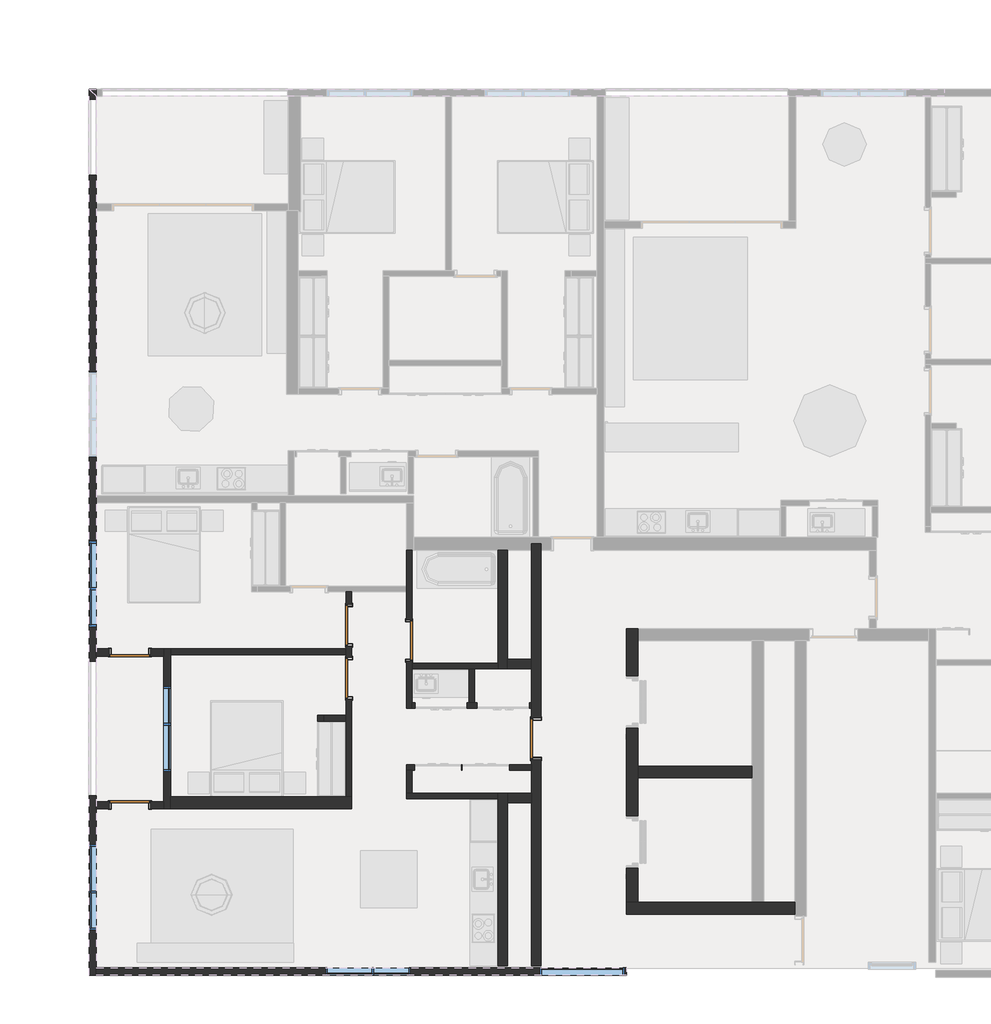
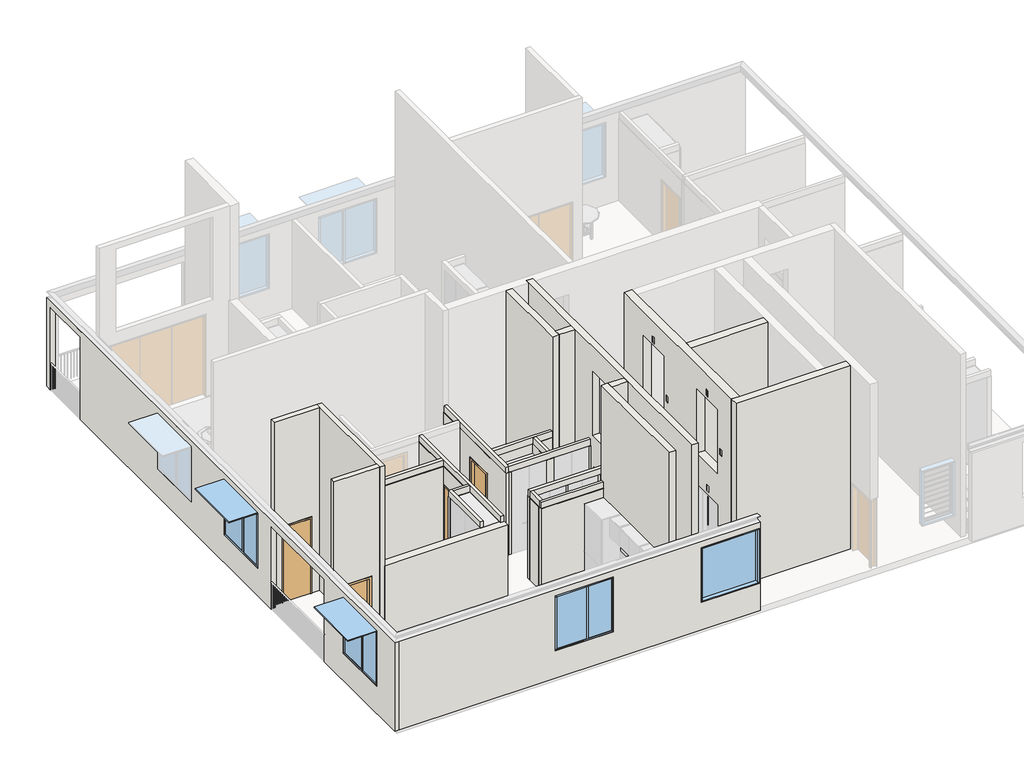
# One storey, part 1 of 5: 25 walls, 6 doors, 5 windows.
"""IFC4 building model written with IfcOpenShell, lengths in millimetres."""

from ifc_helpers import new_model, si_unit, frame, origin, place, context, project, spatial, polyline, outline, extrude, faceted_brep, transform, mapped, element, save
from components import swing_metal_frame_single_dor_92586886, swing_metal_frame_single_dor_60e0689a, swing_metal_frame_single_dor_a0fb8dd1, swing_metal_frame_single_dor1_8c3bdc90, swing_metal_frame_single_dor1_3d2ec989, window_bottom_hung_window_bottom_hung_09912109, window_bottom_hung_window_bottom_hung_26d81d5b, window_fixed_1800mm_wide_217cd763

model = new_model("IFC4")

# Units and contexts
model_context = context("Model", 3, world=origin())
ifc_project = project(units=[si_unit("LENGTHUNIT", "METRE", prefix="MILLI")], contexts=[model_context])

# Site, building, storey
site = spatial("IfcSite", under=ifc_project)
building = spatial("IfcBuilding", under=site)
storey = spatial("IfcBuildingStorey", under=building, Name="9階", Elevation=54700.0)

# Doors
placement = place(None, origin())
swing_metal_frame_single_dor_shape = swing_metal_frame_single_dor_92586886(model_context)
element("IfcDoor", 1, ObjectType="Swing_Metal Frame_Single_DOR : 2040h x 820 (2110x920 STUD)", at=placement, inside=storey, context=model_context, shape_type="MappedRepresentation", body=[
    mapped(swing_metal_frame_single_dor_shape, transform((7848.3164613, 6296.2680774, 54700.0), x_axis=(0.0, -1.0, 0.0), y_axis=(1.0, 0.0, 0.0), z_axis=(0.0, 0.0, 1.0))),
])
element("IfcDoor", 2, ObjectType="Swing_Metal Frame_Single_DOR : 2040h x 820 (2110x920 STUD)", at=placement, inside=storey, context=model_context, shape_type="MappedRepresentation", body=[
    mapped(swing_metal_frame_single_dor_shape, transform((9116.3164613, 7092.2680774, 54700.0), x_axis=(0.0, 1.0, 0.0), y_axis=(-1.0, 0.0, 0.0), z_axis=(0.0, 0.0, 1.0))),
])
swing_metal_frame_single_dor_2_shape = swing_metal_frame_single_dor_60e0689a(model_context)
element("IfcDoor", 3, ObjectType="Swing_Metal Frame_Single_DOR : 2040h x 820 (2110x920 STUD)", at=placement, inside=storey, context=model_context, shape_type="MappedRepresentation", body=[
    mapped(swing_metal_frame_single_dor_2_shape, transform((7848.3164613, 7414.2680774, 54700.0), x_axis=(0.0, 1.0, 0.0), y_axis=(-1.0, 0.0, 0.0), z_axis=(0.0, 0.0, 1.0))),
])
swing_metal_frame_single_dor_3_shape = swing_metal_frame_single_dor_a0fb8dd1(model_context)
element("IfcDoor", 4, ObjectType="Swing_Metal Frame_Single_DOR : 2040h x 820 (2110x920 STUD)", at=placement, inside=storey, context=model_context, shape_type="MappedRepresentation", body=[
    mapped(swing_metal_frame_single_dor_3_shape, transform((11794.6062665, 5019.2678956, 54700.0), x_axis=(0.0, -1.0, 0.0), y_axis=(1.0, 0.0, 0.0), z_axis=(0.0, 0.0, 1.0))),
])
swing_metal_frame_single_dor1_shape = swing_metal_frame_single_dor1_8c3bdc90(model_context)
element("IfcDoor", 5, ObjectType="Swing_Metal Frame_Single_DOR1 : 2040h x 820 (2110x920 STUD)", at=placement, inside=storey, context=model_context, shape_type="MappedRepresentation", body=[
    mapped(swing_metal_frame_single_dor1_shape, transform((3227.1057353, 3621.2680774, 54700.0), x_axis=(-1.0, 0.0, 0.0), y_axis=(0.0, -1.0, 0.0), z_axis=(0.0, 0.0, 1.0))),
])
swing_metal_frame_single_dor1_2_shape = swing_metal_frame_single_dor1_3d2ec989(model_context)
element("IfcDoor", 6, ObjectType="Swing_Metal Frame_Single_DOR1 : 2040h x 820 (2110x920 STUD)", at=placement, inside=storey, context=model_context, shape_type="MappedRepresentation", body=[
    mapped(swing_metal_frame_single_dor1_2_shape, transform((3227.1057353, 6839.2680774, 54700.0), x_axis=(-1.0, 0.0, 0.0), y_axis=(0.0, -1.0, 0.0), z_axis=(0.0, 0.0, 1.0))),
])

# Walls
element("IfcWall", 7, ObjectType="Whte Paint Finish", at=placement, inside=storey, context=model_context, shape_type="Brep", body=[
    faceted_brep([(4084.6057353, 3546.2680774, 54700.0), (4084.6057353, 6914.2680774, 54700.0), (4084.6057353, 6914.2680774, 60700.0), (4084.6057353, 3546.2680774, 60700.0), (4084.6057353, 6130.2680774, 55600.0), (4084.6057353, 4330.2680774, 55600.0), (4084.6057353, 4330.2680774, 57400.0), (4084.6057353, 6130.2680774, 57400.0), (3934.6057353, 3546.2680774, 54700.0), (3934.6057353, 3546.2680774, 60700.0), (3934.6057353, 3696.2680774, 60700.0), (3934.6057353, 6764.2680774, 60700.0), (3934.6057353, 6914.2680774, 60700.0), (3934.6057353, 6914.2680774, 54700.0), (3934.6057353, 6764.2680774, 54700.0), (3934.6057353, 3696.2680774, 54700.0), (3934.6057353, 6130.2680774, 55600.0), (3934.6057353, 6130.2680774, 57400.0), (3934.6057353, 4330.2680774, 57400.0), (3934.6057353, 4330.2680774, 55600.0)], [[[0, 1, 2, 3], [4, 5, 6, 7]], [[8, 9, 10, 11, 12, 13, 14, 15], [16, 17, 18, 19]], [[1, 0, 8, 15, 14, 13]], [[3, 2, 12, 11, 10, 9]], [[0, 3, 9, 8]], [[2, 1, 13, 12]], [[17, 16, 4, 7]], [[18, 17, 7, 6]], [[19, 18, 6, 5]], [[16, 19, 5, 4]]]),
])
element("IfcWall", 8, ObjectType="Whte Paint Finish", at=placement, inside=storey, context=model_context, shape_type="SweptSolid", body=[
    extrude(outline(polyline([(60700.0, 3934.6057353), (60700.0, 2519.6057353), (54700.0, 2519.6057353), (54700.0, 2787.1057353), (57190.0, 2787.1057353), (57190.0, 3667.1057353), (54700.0, 3667.1057353), (54700.0, 3934.6057353), (60700.0, 3934.6057353)])), frame((0.0, 3546.2680774, 0.0), z_axis=(0.0, 1.0, 0.0), x_axis=(0.0, 0.0, 1.0)), (0.0, 0.0, 1.0), 150.0),
])
element("IfcWall", 9, ObjectType="Whte Paint Finish", at=placement, inside=storey, context=model_context, shape_type="SweptSolid", body=[
    extrude(outline(polyline([(60700.0, 3934.6057353), (60700.0, 2519.6057353), (54700.0, 2519.6057353), (54700.0, 2787.1057353), (57190.0, 2787.1057353), (57190.0, 3667.1057353), (54700.0, 3667.1057353), (54700.0, 3934.6057353), (60700.0, 3934.6057353)])), frame((0.0, 6764.2680774, 0.0), z_axis=(0.0, 1.0, 0.0), x_axis=(0.0, 0.0, 1.0)), (0.0, 0.0, 1.0), 150.0),
])
element("IfcWall", 10, ObjectType="Whte Paint Finish", at=placement, inside=storey, context=model_context, shape_type="SweptSolid", body=[
    extrude(outline(polyline([(54700.0, 2519.6057353), (54700.0, 13694.6062665), (57600.0, 13694.6062665), (57600.0, 2519.6057353), (54700.0, 2519.6057353)]), holes=[polyline([(55600.0, 11869.6062665), (57400.0, 11869.6062665), (57400.0, 13669.6062665), (55600.0, 13669.6062665), (55600.0, 11869.6062665)]), polyline([(55600.0, 9149.6062665), (55600.0, 7349.6062665), (57400.0, 7349.6062665), (57400.0, 9149.6062665), (55600.0, 9149.6062665)])]), frame((0.0, 39.0898177, 0.0), z_axis=(0.0, 1.0, 0.0), x_axis=(0.0, 0.0, 1.0)), (0.0, 0.0, 1.0), 150.0),
])
element("IfcWall", 11, ObjectType="Whte Paint Finish", at=placement, inside=storey, context=model_context, shape_type="Brep", body=[
    faceted_brep([(2369.6057353, 18710.0, 57600.0), (2369.6057353, 39.0898177, 57600.0), (2519.6057353, 39.0898177, 57600.0), (2519.6057353, 189.0898177, 57600.0), (2519.6057353, 18560.0, 57600.0), (2519.6057353, 18710.0, 57600.0), (2519.6057353, 39.0898177, 54700.0), (2519.6057353, 189.0898177, 54700.0), (2519.6057353, 3546.2680774, 54700.0), (2519.6057353, 3696.2680774, 54700.0), (2519.6057353, 3816.2680774, 54700.0), (2519.6057353, 3816.2680774, 57400.0), (2519.6057353, 6650.3166994, 57400.0), (2519.6057353, 6650.3166994, 54700.0), (2519.6057353, 6764.2680774, 54700.0), (2519.6057353, 6914.2680774, 54700.0), (2519.6057353, 9989.7821797, 54700.0), (2519.6057353, 10139.7821797, 54700.0), (2519.6057353, 16149.7819979, 54700.0), (2519.6057353, 16299.7819979, 54700.0), (2519.6057353, 16894.8875971, 54700.0), (2519.6057353, 16894.8875971, 57400.0), (2519.6057353, 18500.0, 57400.0), (2519.6057353, 18500.0, 54700.0), (2519.6057353, 18560.0, 54700.0), (2519.6057353, 18710.0, 54700.0), (2519.6057353, 10950.7680774, 55600.0), (2519.6057353, 10950.7680774, 57400.0), (2519.6057353, 12750.7680774, 57400.0), (2519.6057353, 12750.7680774, 55600.0), (2519.6057353, 990.6340387, 55600.0), (2519.6057353, 990.6340387, 57400.0), (2519.6057353, 2790.6340387, 57400.0), (2519.6057353, 2790.6340387, 55600.0), (2519.6057353, 7385.3166994, 55600.0), (2519.6057353, 7385.3166994, 57400.0), (2519.6057353, 9185.3166994, 57400.0), (2519.6057353, 9185.3166994, 55600.0), (2369.6057353, 18710.0, 54700.0), (2369.6057353, 18500.0, 54700.0), (2369.6057353, 18500.0, 57400.0), (2369.6057353, 16894.8875971, 57400.0), (2369.6057353, 16894.8875971, 54700.0), (2369.6057353, 6650.3166994, 54700.0), (2369.6057353, 6650.3166994, 57400.0), (2369.6057353, 3816.2680774, 57400.0), (2369.6057353, 3816.2680774, 54700.0), (2369.6057353, 39.0898177, 54700.0), (2369.6057353, 10950.7680774, 55600.0), (2369.6057353, 12750.7680774, 55600.0), (2369.6057353, 12750.7680774, 57400.0), (2369.6057353, 10950.7680774, 57400.0), (2369.6057353, 990.6340387, 55600.0), (2369.6057353, 2790.6340387, 55600.0), (2369.6057353, 2790.6340387, 57400.0), (2369.6057353, 990.6340387, 57400.0), (2369.6057353, 7385.3166994, 55600.0), (2369.6057353, 9185.3166994, 55600.0), (2369.6057353, 9185.3166994, 57400.0), (2369.6057353, 7385.3166994, 57400.0)], [[[0, 1, 2, 3, 4, 5]], [[5, 4, 3, 2, 6, 7, 8, 9, 10, 11, 12, 13, 14, 15, 16, 17, 18, 19, 20, 21, 22, 23, 24, 25], [26, 27, 28, 29], [30, 31, 32, 33], [34, 35, 36, 37]], [[1, 0, 38, 39, 40, 41, 42, 43, 44, 45, 46, 47], [48, 49, 50, 51], [52, 53, 54, 55], [56, 57, 58, 59]], [[13, 43, 42, 20, 19, 18, 17, 16, 15, 14]], [[38, 25, 24, 23, 39]], [[10, 9, 8, 7, 6, 47, 46]], [[45, 11, 10, 46]], [[12, 44, 43, 13]], [[11, 45, 44, 12]], [[41, 21, 20, 42]], [[22, 40, 39, 23]], [[21, 41, 40, 22]], [[6, 2, 1, 47]], [[5, 25, 38, 0]], [[27, 26, 48, 51]], [[28, 27, 51, 50]], [[29, 28, 50, 49]], [[26, 29, 49, 48]], [[31, 30, 52, 55]], [[32, 31, 55, 54]], [[33, 32, 54, 53]], [[30, 33, 53, 52]], [[35, 34, 56, 59]], [[36, 35, 59, 58]], [[37, 36, 58, 57]], [[34, 37, 57, 56]]]),
])
element("IfcWall", 12, ObjectType="A2 - Acoustic Type 2", at=placement, inside=storey, context=model_context, shape_type="SweptSolid", body=[
    extrude(outline(polyline([(7907.3164613, 3546.2680774), (4084.6057353, 3546.2680774), (4084.6057353, 3796.2680774), (7189.3164613, 3796.2680774), (7189.3164613, 3794.2680774), (7832.3164613, 3794.2680774), (7832.3164613, 3796.2680774), (7907.3164613, 3796.2680774), (7907.3164613, 3546.2680774)])), frame((0.0, 0.0, 54700.0), z_axis=(0.0, 0.0, 1.0), x_axis=(1.0, 0.0, 0.0)), (0.0, 0.0, 1.0), 2700.0),
])
element("IfcWall", 13, ObjectType="C1 - Concrete Type 2", at=placement, inside=storey, context=model_context, shape_type="SweptSolid", body=[
    extrude(outline(polyline([(11694.6062665, 6497.0008144), (11194.6062665, 6497.0008144), (11194.6062665, 6697.0008144), (11694.6062665, 6697.0008144), (11694.6062665, 6497.0008144)])), frame((0.0, 0.0, 54700.0), z_axis=(0.0, 0.0, 1.0), x_axis=(1.0, 0.0, 0.0)), (0.0, 0.0, 1.0), 6000.0),
])
element("IfcWall", 14, ObjectType="C1 - Concrete Type 2", at=placement, inside=storey, context=model_context, shape_type="Brep", body=[
    faceted_brep([(11194.6062665, 6497.0008144, 54700.0), (11194.6062665, 6697.0008144, 54700.0), (11194.6062665, 8997.0008144, 54700.0), (11194.6062665, 8997.0008144, 60700.0), (11194.6062665, 6697.0008144, 60700.0), (11194.6062665, 6497.0008144, 60700.0), (10994.6062665, 6497.0008144, 54700.0), (10994.6062665, 6497.0008144, 60700.0), (10994.6062665, 6509.2680774, 60700.0), (10994.6062665, 6601.2680774, 60700.0), (10994.6062665, 8997.0008144, 60700.0), (10994.6062665, 8997.0008144, 54700.0), (10994.6062665, 6614.2680774, 54700.0)], [[[0, 1, 2, 3, 4, 5]], [[6, 7, 8, 9, 10, 11, 12]], [[2, 1, 0, 6, 12, 11]], [[3, 2, 11, 10]], [[5, 4, 3, 10, 9, 8, 7]], [[0, 5, 7, 6]]]),
])
element("IfcWall", 15, ObjectType="C1 - Concrete Type 2", at=placement, inside=storey, context=model_context, shape_type="SweptSolid", body=[
    extrude(outline(polyline([(11694.6062665, 3673.0), (11194.6062665, 3673.0), (11194.6062665, 3873.0), (11694.6062665, 3873.0), (11694.6062665, 3673.0)])), frame((0.0, 0.0, 54700.0), z_axis=(0.0, 0.0, 1.0), x_axis=(1.0, 0.0, 0.0)), (0.0, 0.0, 1.0), 6000.0),
])
element("IfcWall", 16, ObjectType="C1 - Concrete Type 2", at=placement, inside=storey, context=model_context, shape_type="Brep", body=[
    faceted_brep([(11194.6062665, 235.0, 54700.0), (11194.6062665, 3673.0, 54700.0), (11194.6062665, 3873.0, 54700.0), (11194.6062665, 3873.0, 60700.0), (11194.6062665, 3673.0, 60700.0), (11194.6062665, 235.0, 60700.0), (10994.6062665, 235.0, 54700.0), (10994.6062665, 235.0, 60700.0), (10994.6062665, 3873.0, 60700.0), (10994.6062665, 3873.0, 57400.0), (10994.6062665, 3873.0, 54700.0), (10994.6062665, 3755.0, 54700.0)], [[[0, 1, 2, 3, 4, 5]], [[6, 7, 8, 9, 10, 11]], [[2, 1, 0, 6, 11, 10]], [[3, 2, 10, 9, 8]], [[5, 4, 3, 8, 7]], [[0, 5, 7, 6]]]),
])
element("IfcWall", 17, ObjectType="C1 - Concrete Type 2", at=placement, inside=storey, context=model_context, shape_type="Brep", body=[
    faceted_brep([(11894.6062665, 9131.2680774, 54700.0), (11894.6062665, 9131.2680774, 60700.0), (11894.6062665, 235.0, 60700.0), (11894.6062665, 235.0, 54700.0), (11894.6062665, 4579.2678956, 54700.0), (11894.6062665, 4579.2678956, 56790.0), (11894.6062665, 5459.2678956, 56790.0), (11894.6062665, 5459.2678956, 54700.0), (11894.6062665, 5556.6339478, 57800.0), (11894.6062665, 4576.6339478, 57800.0), (11894.6062665, 4576.6339478, 59890.0), (11894.6062665, 5556.6339478, 59890.0), (11694.6062665, 9131.2680774, 60700.0), (11694.6062665, 9131.2680774, 54700.0), (11694.6062665, 6697.0008144, 54700.0), (11694.6062665, 6497.0008144, 54700.0), (11694.6062665, 5778.2678956, 54700.0), (11694.6062665, 5660.2678956, 54700.0), (11694.6062665, 5459.2678956, 54700.0), (11694.6062665, 5459.2678956, 56790.0), (11694.6062665, 4579.2678956, 56790.0), (11694.6062665, 4579.2678956, 54700.0), (11694.6062665, 4473.0, 54700.0), (11694.6062665, 4355.0, 54700.0), (11694.6062665, 3873.0, 54700.0), (11694.6062665, 3673.0, 54700.0), (11694.6062665, 235.0, 54700.0), (11694.6062665, 235.0, 60700.0), (11694.6062665, 3673.0, 60700.0), (11694.6062665, 3873.0, 60700.0), (11694.6062665, 4368.0, 60700.0), (11694.6062665, 4460.0, 60700.0), (11694.6062665, 5673.2678956, 60700.0), (11694.6062665, 5765.2678956, 60700.0), (11694.6062665, 6497.0008144, 60700.0), (11694.6062665, 6697.0008144, 60700.0), (11694.6062665, 5556.6339478, 57800.0), (11694.6062665, 5556.6339478, 59890.0), (11694.6062665, 4576.6339478, 59890.0), (11694.6062665, 4576.6339478, 57800.0)], [[[0, 1, 2, 3, 4, 5, 6, 7], [8, 9, 10, 11]], [[12, 13, 14, 15, 16, 17, 18, 19, 20, 21, 22, 23, 24, 25, 26, 27, 28, 29, 30, 31, 32, 33, 34, 35], [36, 37, 38, 39]], [[13, 0, 7, 18, 17, 16, 15, 14]], [[3, 26, 25, 24, 23, 22, 21, 4]], [[1, 0, 13, 12]], [[2, 1, 12, 35, 34, 33, 32, 31, 30, 29, 28, 27]], [[3, 2, 27, 26]], [[20, 5, 4, 21]], [[5, 20, 19, 6]], [[6, 19, 18, 7]], [[37, 36, 8, 11]], [[38, 37, 11, 10]], [[39, 38, 10, 9]], [[36, 39, 9, 8]]]),
])
element("IfcWall", 18, ObjectType="C1 - Concrete Type 3 - 250mm", at=placement, inside=storey, context=model_context, shape_type="Brep", body=[
    faceted_brep([(13694.6062665, 1325.0, 54700.0), (17244.6062665, 1325.0, 54700.0), (17244.6062665, 1325.0, 60700.0), (13694.6062665, 1325.0, 60700.0), (13694.6062665, 1575.0, 54700.0), (13694.6062665, 1575.0, 60700.0), (13944.6062665, 1575.0, 60700.0), (16344.6062665, 1575.0, 60700.0), (16594.6062665, 1575.0, 60700.0), (17244.6062665, 1575.0, 60700.0), (17244.6062665, 1575.0, 54700.0), (16594.6062665, 1575.0, 54700.0), (16344.6062665, 1575.0, 54700.0), (13944.6062665, 1575.0, 54700.0)], [[[0, 1, 2, 3]], [[4, 5, 6, 7, 8, 9, 10, 11, 12, 13]], [[1, 0, 4, 13, 12, 11, 10]], [[3, 2, 9, 8, 7, 6, 5]], [[0, 3, 5, 4]], [[2, 1, 10, 9]]]),
])
element("IfcWall", 19, ObjectType="C1 - Concrete Type 3 - 250mm", at=placement, inside=storey, context=model_context, shape_type="SweptSolid", body=[
    extrude(outline(polyline([(16344.6062665, 4195.0), (13944.6062665, 4195.0), (13944.6062665, 4445.0), (16344.6062665, 4445.0), (16344.6062665, 4195.0)])), frame((0.0, 0.0, 54700.0), z_axis=(0.0, 0.0, 1.0), x_axis=(1.0, 0.0, 0.0)), (0.0, 0.0, 1.0), 6000.0),
])
element("IfcWall", 20, ObjectType="C1 - Concrete Type 3 - 250mm", at=placement, inside=storey, context=model_context, shape_type="Brep", body=[
    faceted_brep([(13944.6062665, 7335.0, 60700.0), (13944.6062665, 7085.0, 60700.0), (13944.6062665, 4445.0, 60700.0), (13944.6062665, 4195.0, 60700.0), (13944.6062665, 1575.0, 60700.0), (13944.6062665, 1575.0, 54700.0), (13944.6062665, 2295.0, 54700.0), (13944.6062665, 2295.0, 56800.0), (13944.6062665, 3395.0, 56800.0), (13944.6062665, 3395.0, 54700.0), (13944.6062665, 4195.0, 54700.0), (13944.6062665, 4445.0, 54700.0), (13944.6062665, 5245.0, 54700.0), (13944.6062665, 5245.0, 56800.0), (13944.6062665, 6345.0, 56800.0), (13944.6062665, 6345.0, 54700.0), (13944.6062665, 7085.0, 54700.0), (13944.6062665, 7335.0, 54700.0), (13944.6062665, 5215.0, 57800.0), (13944.6062665, 5215.0, 59900.0), (13944.6062665, 6315.0, 59900.0), (13944.6062665, 6315.0, 57800.0), (13944.6062665, 2335.0, 57800.0), (13944.6062665, 2335.0, 59900.0), (13944.6062665, 3435.0, 59900.0), (13944.6062665, 3435.0, 57800.0), (13694.6062665, 1575.0, 60700.0), (13694.6062665, 7335.0, 60700.0), (13694.6062665, 7335.0, 54700.0), (13694.6062665, 6345.0, 54700.0), (13694.6062665, 6345.0, 56800.0), (13694.6062665, 5245.0, 56800.0), (13694.6062665, 5245.0, 54700.0), (13694.6062665, 3395.0, 54700.0), (13694.6062665, 3395.0, 56800.0), (13694.6062665, 2295.0, 56800.0), (13694.6062665, 2295.0, 54700.0), (13694.6062665, 1575.0, 54700.0), (13694.6062665, 2165.0, 55400.0), (13694.6062665, 2165.0, 55600.0), (13694.6062665, 2065.0, 55600.0), (13694.6062665, 2065.0, 55400.0), (13694.6062665, 2895.0, 56900.0), (13694.6062665, 2895.0, 57100.0), (13694.6062665, 2795.0, 57100.0), (13694.6062665, 2795.0, 56900.0), (13694.6062665, 5115.0, 55400.0), (13694.6062665, 5115.0, 55600.0), (13694.6062665, 5015.0, 55600.0), (13694.6062665, 5015.0, 55400.0), (13694.6062665, 5845.0, 56900.0), (13694.6062665, 5845.0, 57100.0), (13694.6062665, 5745.0, 57100.0), (13694.6062665, 5745.0, 56900.0), (13694.6062665, 5215.0, 59900.0), (13694.6062665, 5215.0, 57800.0), (13694.6062665, 6315.0, 57800.0), (13694.6062665, 6315.0, 59900.0), (13694.6062665, 5085.0, 58500.0), (13694.6062665, 5085.0, 58700.0), (13694.6062665, 4985.0, 58700.0), (13694.6062665, 4985.0, 58500.0), (13694.6062665, 5815.0, 60000.0), (13694.6062665, 5815.0, 60200.0), (13694.6062665, 5715.0, 60200.0), (13694.6062665, 5715.0, 60000.0), (13694.6062665, 2335.0, 59900.0), (13694.6062665, 2335.0, 57800.0), (13694.6062665, 3435.0, 57800.0), (13694.6062665, 3435.0, 59900.0), (13694.6062665, 2205.0, 58500.0), (13694.6062665, 2205.0, 58700.0), (13694.6062665, 2105.0, 58700.0), (13694.6062665, 2105.0, 58500.0), (13694.6062665, 2935.0, 60000.0), (13694.6062665, 2935.0, 60200.0), (13694.6062665, 2835.0, 60200.0), (13694.6062665, 2835.0, 60000.0), (13714.6062665, 2165.0, 55400.0), (13714.6062665, 2065.0, 55400.0), (13714.6062665, 2065.0, 55600.0), (13714.6062665, 2165.0, 55600.0), (13714.6062665, 2895.0, 56900.0), (13714.6062665, 2795.0, 56900.0), (13714.6062665, 2795.0, 57100.0), (13714.6062665, 2895.0, 57100.0), (13714.6062665, 5115.0, 55400.0), (13714.6062665, 5015.0, 55400.0), (13714.6062665, 5015.0, 55600.0), (13714.6062665, 5115.0, 55600.0), (13714.6062665, 5845.0, 56900.0), (13714.6062665, 5745.0, 56900.0), (13714.6062665, 5745.0, 57100.0), (13714.6062665, 5845.0, 57100.0), (13714.6062665, 5085.0, 58500.0), (13714.6062665, 4985.0, 58500.0), (13714.6062665, 4985.0, 58700.0), (13714.6062665, 5085.0, 58700.0), (13714.6062665, 5815.0, 60000.0), (13714.6062665, 5715.0, 60000.0), (13714.6062665, 5715.0, 60200.0), (13714.6062665, 5815.0, 60200.0), (13714.6062665, 2205.0, 58500.0), (13714.6062665, 2105.0, 58500.0), (13714.6062665, 2105.0, 58700.0), (13714.6062665, 2205.0, 58700.0), (13714.6062665, 2935.0, 60000.0), (13714.6062665, 2835.0, 60000.0), (13714.6062665, 2835.0, 60200.0), (13714.6062665, 2935.0, 60200.0)], [[[0, 1, 2, 3, 4, 5, 6, 7, 8, 9, 10, 11, 12, 13, 14, 15, 16, 17], [18, 19, 20, 21], [22, 23, 24, 25]], [[26, 27, 28, 29, 30, 31, 32, 33, 34, 35, 36, 37], [38, 39, 40, 41], [42, 43, 44, 45], [46, 47, 48, 49], [50, 51, 52, 53], [54, 55, 56, 57], [58, 59, 60, 61], [62, 63, 64, 65], [66, 67, 68, 69], [70, 71, 72, 73], [74, 75, 76, 77]], [[5, 37, 36, 6]], [[9, 33, 32, 12, 11, 10]], [[17, 16, 15, 29, 28]], [[4, 3, 2, 1, 0, 27, 26]], [[35, 7, 6, 36]], [[8, 34, 33, 9]], [[7, 35, 34, 8]], [[78, 79, 80, 81]], [[78, 81, 39, 38]], [[81, 80, 40, 39]], [[80, 79, 41, 40]], [[79, 78, 38, 41]], [[82, 83, 84, 85]], [[82, 85, 43, 42]], [[85, 84, 44, 43]], [[84, 83, 45, 44]], [[83, 82, 42, 45]], [[31, 13, 12, 32]], [[14, 30, 29, 15]], [[13, 31, 30, 14]], [[86, 87, 88, 89]], [[86, 89, 47, 46]], [[89, 88, 48, 47]], [[88, 87, 49, 48]], [[87, 86, 46, 49]], [[90, 91, 92, 93]], [[90, 93, 51, 50]], [[93, 92, 52, 51]], [[92, 91, 53, 52]], [[91, 90, 50, 53]], [[5, 4, 26, 37]], [[0, 17, 28, 27]], [[18, 55, 54, 19]], [[55, 18, 21, 56]], [[56, 21, 20, 57]], [[19, 54, 57, 20]], [[94, 95, 96, 97]], [[94, 97, 59, 58]], [[97, 96, 60, 59]], [[96, 95, 61, 60]], [[95, 94, 58, 61]], [[98, 99, 100, 101]], [[98, 101, 63, 62]], [[101, 100, 64, 63]], [[100, 99, 65, 64]], [[99, 98, 62, 65]], [[22, 67, 66, 23]], [[67, 22, 25, 68]], [[68, 25, 24, 69]], [[23, 66, 69, 24]], [[102, 103, 104, 105]], [[102, 105, 71, 70]], [[105, 104, 72, 71]], [[104, 103, 73, 72]], [[103, 102, 70, 73]], [[106, 107, 108, 109]], [[106, 109, 75, 74]], [[109, 108, 76, 75]], [[108, 107, 77, 76]], [[107, 106, 74, 77]]]),
])
element("IfcWall", 21, ObjectType="P1 - Partition Type 1", at=placement, inside=storey, context=model_context, shape_type="Brep", body=[
    faceted_brep([(4084.6057353, 6796.2680774, 54700.0), (7789.3164613, 6796.2680774, 54700.0), (7789.3164613, 6796.2680774, 57400.0), (4084.6057353, 6796.2680774, 57400.0), (7789.3164613, 6914.2680774, 54700.0), (4084.6057353, 6914.2680774, 54700.0), (4084.6057353, 6914.2680774, 57400.0), (7789.3164613, 6914.2680774, 57400.0), (4084.6057353, 6809.2680774, 57400.0), (4084.6057353, 6809.2680774, 57600.0), (4084.6057353, 6901.2680774, 57600.0), (4084.6057353, 6901.2680774, 57400.0), (7789.3164613, 6901.2680774, 57400.0), (7802.3164613, 6901.2680774, 57600.0), (7802.3164613, 6901.2680774, 57400.0), (7789.3164613, 6809.2680774, 57400.0), (7802.3164613, 6809.2680774, 57400.0), (7802.3164613, 6809.2680774, 57600.0)], [[[0, 1, 2, 3]], [[4, 5, 6, 7]], [[1, 0, 5, 4]], [[0, 3, 8, 9, 10, 11, 6, 5]], [[7, 6, 11, 12]], [[12, 11, 10, 13, 14]], [[3, 2, 15, 8]], [[8, 15, 16, 17, 9]], [[2, 1, 4, 7, 12, 15]], [[13, 10, 9, 17]], [[16, 15, 12, 14]], [[13, 17, 16, 14]]]),
])
element("IfcWall", 22, ObjectType="P1 - Partition Type 1", at=placement, inside=storey, context=model_context, shape_type="Brep", body=[
    faceted_brep([(7789.3164613, 3746.2680774, 54700.0), (7789.3164613, 3746.2680774, 57400.0), (7789.3164613, 5394.2680774, 57400.0), (7789.3164613, 5512.2680774, 57400.0), (7789.3164613, 6796.2680774, 57400.0), (7789.3164613, 6914.2680774, 57400.0), (7789.3164613, 8114.2680774, 57400.0), (7789.3164613, 8114.2680774, 54700.0), (7789.3164613, 7854.2680774, 54700.0), (7789.3164613, 7854.2680774, 56790.0), (7789.3164613, 6974.2680774, 56790.0), (7789.3164613, 6974.2680774, 54700.0), (7789.3164613, 6914.2680774, 54700.0), (7789.3164613, 6796.2680774, 54700.0), (7789.3164613, 6736.2680774, 54700.0), (7789.3164613, 6736.2680774, 56790.0), (7789.3164613, 5856.2680774, 56790.0), (7789.3164613, 5856.2680774, 54700.0), (7789.3164613, 5512.2680774, 54700.0), (7789.3164613, 5394.2680774, 54700.0), (7907.3164613, 3746.2680774, 57400.0), (7907.3164613, 3746.2680774, 54700.0), (7907.3164613, 5856.2680774, 54700.0), (7907.3164613, 5856.2680774, 56790.0), (7907.3164613, 6736.2680774, 56790.0), (7907.3164613, 6736.2680774, 54700.0), (7907.3164613, 6974.2680774, 54700.0), (7907.3164613, 6974.2680774, 56790.0), (7907.3164613, 7854.2680774, 56790.0), (7907.3164613, 7854.2680774, 54700.0), (7907.3164613, 8114.2680774, 54700.0), (7907.3164613, 8114.2680774, 57400.0), (7894.3164613, 3746.2680774, 57400.0), (7894.3164613, 3746.2680774, 57600.0), (7802.3164613, 3746.2680774, 57600.0), (7802.3164613, 3746.2680774, 57400.0), (7894.3164613, 8114.2680774, 57400.0), (7894.3164613, 8127.2680774, 57400.0), (7894.3164613, 8127.2680774, 57600.0), (7802.3164613, 5407.2680774, 57400.0), (7802.3164613, 5499.2680774, 57400.0), (7802.3164613, 6809.2680774, 57400.0), (7802.3164613, 6901.2680774, 57400.0), (7802.3164613, 8114.2680774, 57400.0), (7802.3164613, 5407.2680774, 57600.0), (7802.3164613, 5499.2680774, 57600.0), (7802.3164613, 6809.2680774, 57600.0), (7802.3164613, 6901.2680774, 57600.0), (7802.3164613, 8127.2680774, 57600.0), (7802.3164613, 8127.2680774, 57400.0)], [[[0, 1, 2, 3, 4, 5, 6, 7, 8, 9, 10, 11, 12, 13, 14, 15, 16, 17, 18, 19]], [[20, 21, 22, 23, 24, 25, 26, 27, 28, 29, 30, 31]], [[21, 0, 19, 18, 17, 22]], [[25, 14, 13, 12, 11, 26]], [[7, 30, 29, 8]], [[1, 0, 21, 20, 32, 33, 34, 35]], [[20, 31, 36, 32]], [[33, 32, 36, 37, 38]], [[6, 5, 4, 3, 2, 1, 35, 39, 40, 41, 42, 43]], [[43, 42, 41, 40, 39, 35, 34, 44, 45, 46, 47, 48, 49]], [[34, 33, 38, 48, 47, 46, 45, 44]], [[16, 23, 22, 17]], [[23, 16, 15, 24]], [[24, 15, 14, 25]], [[28, 9, 8, 29]], [[9, 28, 27, 10]], [[10, 27, 26, 11]], [[7, 6, 43, 36, 31, 30]], [[37, 36, 43, 49]], [[48, 38, 37, 49]]]),
])
element("IfcWall", 23, ObjectType="P1 - Partition Type 1", at=placement, inside=storey, context=model_context, shape_type="Brep", body=[
    faceted_brep([(7189.3164613, 5512.2680774, 57400.0), (7189.3164613, 5512.2680774, 54700.0), (7189.3164613, 5394.2680774, 54700.0), (7189.3164613, 5394.2680774, 57400.0), (7307.3164613, 5512.2680774, 54700.0), (7307.3164613, 5512.2680774, 57400.0), (7307.3164613, 5394.2680774, 57400.0), (7307.3164613, 5394.2680774, 54700.0), (7202.3164613, 5499.2680774, 57400.0), (7294.3164613, 5499.2680774, 57400.0), (7294.3164613, 5407.2680774, 57400.0), (7294.3164613, 5394.2680774, 57400.0), (7202.3164613, 5394.2680774, 57400.0), (7294.3164613, 5499.2680774, 57600.0), (7294.3164613, 5407.2680774, 57600.0), (7294.3164613, 3796.2680774, 57600.0), (7294.3164613, 3796.2680774, 57400.0), (7202.3164613, 3796.2680774, 57600.0), (7202.3164613, 5499.2680774, 57600.0), (7202.3164613, 3796.2680774, 57400.0)], [[[0, 1, 2, 3]], [[4, 5, 6, 7]], [[1, 4, 7, 2]], [[8, 9, 10, 11, 6, 5, 0, 3, 12]], [[13, 14, 15, 16, 11, 10, 9]], [[17, 18, 8, 12, 19]], [[12, 11, 16, 19]], [[11, 12, 3, 2, 7, 6]], [[1, 0, 5, 4]], [[16, 15, 17, 19]], [[15, 14, 13, 18, 17]], [[9, 8, 18, 13]]]),
])
element("IfcWall", 24, ObjectType="P1 - Partition Type 1", at=placement, inside=storey, context=model_context, shape_type="Brep", body=[
    faceted_brep([(7307.3164613, 5394.2680774, 54700.0), (7789.3164613, 5394.2680774, 54700.0), (7789.3164613, 5394.2680774, 57400.0), (7307.3164613, 5394.2680774, 57400.0), (7789.3164613, 5512.2680774, 54700.0), (7307.3164613, 5512.2680774, 54700.0), (7307.3164613, 5512.2680774, 57400.0), (7789.3164613, 5512.2680774, 57400.0), (7307.3164613, 5499.2680774, 57400.0), (7789.3164613, 5499.2680774, 57400.0), (7294.3164613, 5499.2680774, 57400.0), (7294.3164613, 5499.2680774, 57600.0), (7802.3164613, 5499.2680774, 57600.0), (7802.3164613, 5499.2680774, 57400.0), (7789.3164613, 5407.2680774, 57400.0), (7307.3164613, 5407.2680774, 57400.0), (7802.3164613, 5407.2680774, 57400.0), (7802.3164613, 5407.2680774, 57600.0), (7294.3164613, 5407.2680774, 57600.0), (7294.3164613, 5407.2680774, 57400.0)], [[[0, 1, 2, 3]], [[4, 5, 6, 7]], [[1, 0, 5, 4]], [[7, 6, 8, 9]], [[9, 8, 10, 11, 12, 13]], [[3, 2, 14, 15]], [[15, 14, 16, 17, 18, 19]], [[2, 1, 4, 7, 9, 14]], [[0, 3, 15, 8, 6, 5]], [[18, 17, 12, 11]], [[16, 14, 9, 13]], [[12, 17, 16, 13]], [[10, 8, 15, 19]], [[18, 11, 10, 19]]]),
])
element("IfcWall", 25, ObjectType="P1 - Partition Type 1", at=placement, inside=storey, context=model_context, shape_type="Brep", body=[
    faceted_brep([(9057.3164613, 3755.0, 54700.0), (10994.6062665, 3755.0, 54700.0), (10994.6062665, 3755.0, 57400.0), (9057.3164613, 3755.0, 57400.0), (10994.6062665, 3873.0, 54700.0), (9175.3164613, 3873.0, 54700.0), (9057.3164613, 3873.0, 54700.0), (9057.3164613, 3873.0, 57400.0), (9175.3164613, 3873.0, 57400.0), (10994.6062665, 3873.0, 57400.0), (10994.6062665, 3768.0, 57400.0), (9070.3164613, 3768.0, 57400.0), (9070.3164613, 3860.0, 57400.0), (9162.3164613, 3860.0, 57400.0), (10994.6062665, 3860.0, 57400.0), (10994.6062665, 3860.0, 57600.0), (9070.3164613, 3860.0, 57600.0), (9162.3164613, 3860.0, 57600.0), (10994.6062665, 3768.0, 57600.0), (9070.3164613, 3768.0, 57600.0)], [[[0, 1, 2, 3]], [[4, 5, 6, 7, 8, 9]], [[1, 0, 6, 5, 4]], [[9, 8, 7, 3, 2, 10, 11, 12, 13, 14]], [[15, 14, 13, 12, 16, 17]], [[10, 18, 19, 11]], [[0, 3, 7, 6]], [[12, 11, 19, 16]], [[2, 1, 4, 9, 14, 15, 18, 10]], [[18, 15, 17, 16, 19]]]),
])
element("IfcWall", 26, ObjectType="P1 - Partition Type 1", at=placement, inside=storey, context=model_context, shape_type="Brep", body=[
    faceted_brep([(9175.3164613, 6496.2680774, 54700.0), (10375.3164613, 6496.2680774, 54700.0), (10493.3164613, 6496.2680774, 54700.0), (10994.6062665, 6496.2680774, 54700.0), (10994.6062665, 6496.2680774, 57400.0), (10493.3164613, 6496.2680774, 57400.0), (10375.3164613, 6496.2680774, 57400.0), (9175.3164613, 6496.2680774, 57400.0), (10994.6062665, 6614.2680774, 54700.0), (9175.3164613, 6614.2680774, 54700.0), (9175.3164613, 6614.2680774, 57400.0), (10994.6062665, 6614.2680774, 57400.0), (10994.6062665, 6497.0008144, 54700.0), (9175.3164613, 6601.2680774, 57400.0), (10994.6062665, 6601.2680774, 57400.0), (10994.6062665, 6601.2680774, 57600.0), (9162.3164613, 6601.2680774, 57400.0), (9162.3164613, 6601.2680774, 57600.0), (10994.6062665, 6509.2680774, 57400.0), (10480.3164613, 6509.2680774, 57400.0), (10388.3164613, 6509.2680774, 57400.0), (9175.3164613, 6509.2680774, 57400.0), (10994.6062665, 6509.2680774, 57600.0), (10480.3164613, 6509.2680774, 57600.0), (10388.3164613, 6509.2680774, 57600.0), (9162.3164613, 6509.2680774, 57600.0), (9162.3164613, 6509.2680774, 57400.0)], [[[0, 1, 2, 3, 4, 5, 6, 7]], [[8, 9, 10, 11]], [[3, 2, 1, 0, 9, 8, 12]], [[11, 10, 13, 14]], [[15, 14, 13, 16, 17]], [[7, 6, 5, 4, 18, 19, 20, 21]], [[21, 20, 19, 18, 22, 23, 24, 25, 26]], [[0, 7, 21, 13, 10, 9]], [[16, 13, 21, 26]], [[25, 17, 16, 26]], [[4, 3, 12, 8, 11, 14, 15, 22, 18]], [[25, 24, 23, 22, 15, 17]]]),
])
element("IfcWall", 27, ObjectType="P1 - Partition Type 1", at=placement, inside=storey, context=model_context, shape_type="Brep", body=[
    faceted_brep([(9057.3164613, 5660.2678956, 57400.0), (9057.3164613, 8996.2680774, 57400.0), (9057.3164613, 8996.2680774, 54700.0), (9057.3164613, 7532.2680774, 54700.0), (9057.3164613, 7532.2680774, 56790.0), (9057.3164613, 6652.2680774, 56790.0), (9057.3164613, 6652.2680774, 54700.0), (9057.3164613, 5660.2678956, 54700.0), (9175.3164613, 8996.2680774, 57400.0), (9175.3164613, 6614.2680774, 57400.0), (9175.3164613, 6496.2680774, 57400.0), (9175.3164613, 5778.2678956, 57400.0), (9175.3164613, 5660.2678956, 57400.0), (9175.3164613, 5660.2678956, 54700.0), (9175.3164613, 5778.2678956, 54700.0), (9175.3164613, 6496.2680774, 54700.0), (9175.3164613, 6614.2680774, 54700.0), (9175.3164613, 6652.2680774, 54700.0), (9175.3164613, 6652.2680774, 56790.0), (9175.3164613, 7532.2680774, 56790.0), (9175.3164613, 7532.2680774, 54700.0), (9175.3164613, 8996.2680774, 54700.0), (9162.3164613, 8996.2680774, 57400.0), (9162.3164613, 6601.2680774, 57400.0), (9162.3164613, 6509.2680774, 57400.0), (9162.3164613, 5765.2678956, 57400.0), (9162.3164613, 5673.2678956, 57400.0), (9070.3164613, 5673.2678956, 57400.0), (9070.3164613, 8996.2680774, 57400.0), (9162.3164613, 8996.2680774, 57600.0), (9162.3164613, 6601.2680774, 57600.0), (9162.3164613, 6509.2680774, 57600.0), (9162.3164613, 5765.2678956, 57600.0), (9162.3164613, 5673.2678956, 57600.0), (9070.3164613, 5673.2678956, 57600.0), (9070.3164613, 8996.2680774, 57600.0)], [[[0, 1, 2, 3, 4, 5, 6, 7]], [[8, 9, 10, 11, 12, 13, 14, 15, 16, 17, 18, 19, 20, 21]], [[13, 7, 6, 17, 16, 15, 14]], [[2, 21, 20, 3]], [[1, 0, 12, 11, 10, 9, 8, 22, 23, 24, 25, 26, 27, 28]], [[29, 30, 31, 32, 33, 26, 25, 24, 23, 22]], [[28, 27, 34, 35]], [[19, 4, 3, 20]], [[4, 19, 18, 5]], [[5, 18, 17, 6]], [[0, 7, 13, 12]], [[33, 32, 31, 30, 29, 35, 34]], [[27, 26, 33, 34]], [[2, 1, 28, 35, 29, 22, 8, 21]]]),
])
element("IfcWall", 28, ObjectType="P1 - Partition Type 1", at=placement, inside=storey, context=model_context, shape_type="Brep", body=[
    faceted_brep([(10225.3164613, 4355.0, 57400.0), (10225.3164613, 4355.0, 54700.0), (10227.4613639, 4355.0, 54700.0), (10227.4613639, 4355.0, 57400.0), (9057.3164613, 4355.0, 54700.0), (9175.3164613, 4355.0, 54700.0), (9225.3164613, 4355.0, 54700.0), (9225.3164613, 4355.0, 57400.0), (9175.3164613, 4355.0, 57400.0), (9057.3164613, 4355.0, 57400.0), (11694.6062665, 4355.0, 54700.0), (11694.6062665, 4355.0, 57400.0), (11227.4613639, 4355.0, 57400.0), (11227.4613639, 4355.0, 54700.0), (9225.3164613, 4473.0, 54700.0), (9057.3164613, 4473.0, 54700.0), (9057.3164613, 4473.0, 57400.0), (9225.3164613, 4473.0, 57400.0), (10225.3164613, 4473.0, 54700.0), (10225.3164613, 4473.0, 57400.0), (10227.4613639, 4473.0, 57400.0), (10227.4613639, 4473.0, 54700.0), (11694.6062665, 4473.0, 57400.0), (11694.6062665, 4473.0, 54700.0), (11227.4613639, 4473.0, 54700.0), (11227.4613639, 4473.0, 57400.0), (10225.3164613, 4368.0, 57400.0), (10227.4613639, 4368.0, 57400.0), (10225.3164613, 4460.0, 57400.0), (10227.4613639, 4460.0, 57400.0), (9225.3164613, 4368.0, 57400.0), (9162.3164613, 4368.0, 57400.0), (9070.3164613, 4368.0, 57400.0), (9070.3164613, 4460.0, 57400.0), (9225.3164613, 4460.0, 57400.0), (11694.6062665, 4460.0, 57400.0), (11227.4613639, 4460.0, 57400.0), (11694.6062665, 4368.0, 57400.0), (11227.4613639, 4368.0, 57400.0), (9070.3164613, 4460.0, 57600.0), (11694.6062665, 4460.0, 57600.0), (11694.6062665, 4368.0, 57600.0), (9162.3164613, 4368.0, 57600.0), (9070.3164613, 4368.0, 57600.0)], [[[0, 1, 2, 3]], [[4, 5, 6, 7, 8, 9]], [[10, 11, 12, 13]], [[14, 15, 16, 17]], [[18, 19, 20, 21]], [[22, 23, 24, 25]], [[1, 18, 21, 2]], [[6, 5, 4, 15, 14]], [[23, 10, 13, 24]], [[26, 0, 3, 27]], [[19, 28, 29, 20]], [[9, 8, 7, 30, 31, 32, 33, 34, 17, 16]], [[35, 22, 25, 36]], [[11, 37, 38, 12]], [[39, 40, 35, 36, 29, 28, 34, 33]], [[41, 42, 43, 32, 31, 30, 26, 27, 38, 37]], [[34, 28, 26, 30]], [[1, 0, 26, 28, 19, 18]], [[7, 6, 14, 17, 34, 30]], [[36, 38, 27, 29]], [[38, 36, 25, 24, 13, 12]], [[29, 27, 3, 2, 21, 20]], [[4, 9, 16, 15]], [[33, 32, 43, 39]], [[11, 10, 23, 22, 35, 40, 41, 37]], [[40, 39, 43, 42, 41]]]),
])
element("IfcWall", 29, ObjectType="P1 - Partition Type 1", at=placement, inside=storey, context=model_context, shape_type="Brep", body=[
    faceted_brep([(9175.3164613, 5660.2678956, 54700.0), (9235.3164613, 5660.2678956, 54700.0), (9235.3164613, 5660.2678956, 57400.0), (9175.3164613, 5660.2678956, 57400.0), (10335.3164613, 5660.2678956, 57400.0), (10335.3164613, 5660.2678956, 54700.0), (10549.9613639, 5660.2678956, 54700.0), (10549.9613639, 5660.2678956, 57400.0), (11694.6062665, 5660.2678956, 54700.0), (11694.6062665, 5660.2678956, 57400.0), (11649.9613639, 5660.2678956, 57400.0), (11649.9613639, 5660.2678956, 54700.0), (9235.3164613, 5778.2678956, 54700.0), (9175.3164613, 5778.2678956, 54700.0), (9175.3164613, 5778.2678956, 57400.0), (9235.3164613, 5778.2678956, 57400.0), (10335.3164613, 5778.2678956, 54700.0), (10335.3164613, 5778.2678956, 57400.0), (10375.3164613, 5778.2678956, 57400.0), (10493.3164613, 5778.2678956, 57400.0), (10549.9613639, 5778.2678956, 57400.0), (10549.9613639, 5778.2678956, 54700.0), (10493.3164613, 5778.2678956, 54700.0), (10375.3164613, 5778.2678956, 54700.0), (11694.6062665, 5778.2678956, 57400.0), (11694.6062665, 5778.2678956, 54700.0), (11649.9613639, 5778.2678956, 54700.0), (11649.9613639, 5778.2678956, 57400.0), (9175.3164613, 5765.2678956, 57400.0), (9235.3164613, 5765.2678956, 57400.0), (10335.3164613, 5765.2678956, 57400.0), (10388.3164613, 5765.2678956, 57400.0), (10480.3164613, 5765.2678956, 57400.0), (10549.9613639, 5765.2678956, 57400.0), (11694.6062665, 5765.2678956, 57400.0), (11649.9613639, 5765.2678956, 57400.0), (9162.3164613, 5765.2678956, 57400.0), (9162.3164613, 5765.2678956, 57600.0), (10388.3164613, 5765.2678956, 57600.0), (10480.3164613, 5765.2678956, 57600.0), (11694.6062665, 5765.2678956, 57600.0), (9235.3164613, 5673.2678956, 57400.0), (9175.3164613, 5673.2678956, 57400.0), (10335.3164613, 5673.2678956, 57400.0), (10549.9613639, 5673.2678956, 57400.0), (11694.6062665, 5673.2678956, 57400.0), (11649.9613639, 5673.2678956, 57400.0), (11694.6062665, 5673.2678956, 57600.0), (9162.3164613, 5673.2678956, 57600.0), (9162.3164613, 5673.2678956, 57400.0)], [[[0, 1, 2, 3]], [[4, 5, 6, 7]], [[8, 9, 10, 11]], [[12, 13, 14, 15]], [[16, 17, 18, 19, 20, 21, 22, 23]], [[24, 25, 26, 27]], [[1, 0, 13, 12]], [[5, 16, 23, 22, 21, 6]], [[25, 8, 11, 26]], [[15, 14, 28, 29]], [[17, 30, 31, 32, 33, 20, 19, 18]], [[34, 24, 27, 35]], [[29, 28, 36, 37, 38, 39, 40, 34, 35, 33, 32, 31, 30]], [[3, 2, 41, 42]], [[43, 4, 7, 44]], [[9, 45, 46, 10]], [[47, 48, 49, 42, 41, 43, 44, 46, 45]], [[29, 30, 43, 41]], [[2, 1, 12, 15, 29, 41]], [[5, 4, 43, 30, 17, 16]], [[44, 33, 35, 46]], [[33, 44, 7, 6, 21, 20]], [[46, 35, 27, 26, 11, 10]], [[0, 3, 42, 28, 14, 13]], [[36, 28, 42, 49]], [[48, 37, 36, 49]], [[9, 8, 25, 24, 34, 40, 47, 45]], [[48, 47, 40, 39, 38, 37]]]),
])
element("IfcWall", 30, ObjectType="P1 - Partition Type 1", at=placement, inside=storey, context=model_context, shape_type="Brep", body=[
    faceted_brep([(9175.3164613, 3873.0, 54700.0), (9175.3164613, 4355.0, 54700.0), (9175.3164613, 4355.0, 57400.0), (9175.3164613, 3873.0, 57400.0), (9057.3164613, 4355.0, 54700.0), (9057.3164613, 3873.0, 54700.0), (9057.3164613, 3873.0, 57400.0), (9057.3164613, 4355.0, 57400.0), (9070.3164613, 3873.0, 57400.0), (9070.3164613, 4355.0, 57400.0), (9070.3164613, 3860.0, 57400.0), (9070.3164613, 3860.0, 57600.0), (9070.3164613, 4368.0, 57600.0), (9070.3164613, 4368.0, 57400.0), (9162.3164613, 4355.0, 57400.0), (9162.3164613, 3873.0, 57400.0), (9162.3164613, 4368.0, 57400.0), (9162.3164613, 4368.0, 57600.0), (9162.3164613, 3860.0, 57600.0), (9162.3164613, 3860.0, 57400.0)], [[[0, 1, 2, 3]], [[4, 5, 6, 7]], [[1, 0, 5, 4]], [[7, 6, 8, 9]], [[9, 8, 10, 11, 12, 13]], [[3, 2, 14, 15]], [[15, 14, 16, 17, 18, 19]], [[0, 3, 15, 8, 6, 5]], [[10, 8, 15, 19]], [[18, 11, 10, 19]], [[2, 1, 4, 7, 9, 14]], [[18, 17, 12, 11]], [[16, 14, 9, 13]], [[12, 17, 16, 13]]]),
])
element("IfcWall", 31, ObjectType="P1 - Partition Type 1", at=placement, inside=storey, context=model_context, shape_type="Brep", body=[
    faceted_brep([(10493.3164613, 5778.2678956, 54700.0), (10493.3164613, 6496.2680774, 54700.0), (10493.3164613, 6496.2680774, 57400.0), (10493.3164613, 5778.2678956, 57400.0), (10375.3164613, 6496.2680774, 54700.0), (10375.3164613, 5778.2678956, 54700.0), (10375.3164613, 5778.2678956, 57400.0), (10375.3164613, 6496.2680774, 57400.0), (10388.3164613, 5778.2678956, 57400.0), (10388.3164613, 6496.2680774, 57400.0), (10388.3164613, 5765.2678956, 57400.0), (10388.3164613, 5765.2678956, 57600.0), (10388.3164613, 6509.2680774, 57600.0), (10388.3164613, 6509.2680774, 57400.0), (10480.3164613, 6496.2680774, 57400.0), (10480.3164613, 5778.2678956, 57400.0), (10480.3164613, 6509.2680774, 57400.0), (10480.3164613, 6509.2680774, 57600.0), (10480.3164613, 5765.2678956, 57600.0), (10480.3164613, 5765.2678956, 57400.0)], [[[0, 1, 2, 3]], [[4, 5, 6, 7]], [[1, 0, 5, 4]], [[7, 6, 8, 9]], [[9, 8, 10, 11, 12, 13]], [[3, 2, 14, 15]], [[15, 14, 16, 17, 18, 19]], [[2, 1, 4, 7, 9, 14]], [[18, 17, 12, 11]], [[16, 14, 9, 13]], [[12, 17, 16, 13]], [[0, 3, 15, 8, 6, 5]], [[10, 8, 15, 19]], [[18, 11, 10, 19]]]),
])

# Windows
window_bottom_hung_window_bottom_hung_shape = window_bottom_hung_window_bottom_hung_09912109(model_context)
element("IfcWindow", 32, ObjectType="Window_Bottom Hung : Window_Bottom Hung", at=placement, inside=storey, context=model_context, shape_type="MappedRepresentation", body=[
    mapped(window_bottom_hung_window_bottom_hung_shape, transform((2444.6057353, 8285.3166994, 54600.0), x_axis=(0.0, 1.0, 0.0), y_axis=(-1.0, 0.0, 0.0), z_axis=(0.0, 0.0, 1.0))),
])
element("IfcWindow", 33, ObjectType="Window_Bottom Hung : Window_Bottom Hung", at=placement, inside=storey, context=model_context, shape_type="MappedRepresentation", body=[
    mapped(window_bottom_hung_window_bottom_hung_shape, transform((2444.6057353, 1890.6340387, 54600.0), x_axis=(0.0, 1.0, 0.0), y_axis=(-1.0, 0.0, 0.0), z_axis=(0.0, 0.0, 1.0))),
])
window_bottom_hung_window_bottom_hung_2_shape = window_bottom_hung_window_bottom_hung_26d81d5b(model_context)
element("IfcWindow", 34, ObjectType="Window_Bottom Hung : Window_Bottom Hung", at=placement, inside=storey, context=model_context, shape_type="MappedRepresentation", body=[
    mapped(window_bottom_hung_window_bottom_hung_2_shape, transform((8249.6062665, 114.0898177, 54600.0), x_axis=(-1.0, 0.0, 0.0), y_axis=(0.0, -1.0, 0.0), z_axis=(0.0, 0.0, 1.0))),
])
element("IfcWindow", 35, ObjectType="Window_Bottom Hung : Window_Bottom Hung", at=placement, inside=storey, context=model_context, shape_type="MappedRepresentation", body=[
    mapped(window_bottom_hung_window_bottom_hung_2_shape, transform((4009.6057353, 5230.2680774, 54600.0), x_axis=(0.0, -1.0, 0.0), y_axis=(1.0, 0.0, 0.0), z_axis=(0.0, 0.0, 1.0))),
])
window_fixed_1800mm_wide_shape = window_fixed_1800mm_wide_217cd763(model_context)
element("IfcWindow", 36, ObjectType="Window_Fixed : 1800mm Wide", at=placement, inside=storey, context=model_context, shape_type="MappedRepresentation", body=[
    mapped(window_fixed_1800mm_wide_shape, transform((12769.6062665, 114.0898177, 55350.0), x_axis=(1.0, 0.0, 0.0), y_axis=(0.0, 1.0, 0.0), z_axis=(0.0, 0.0, 1.0))),
])

save(model, "model.ifc")
